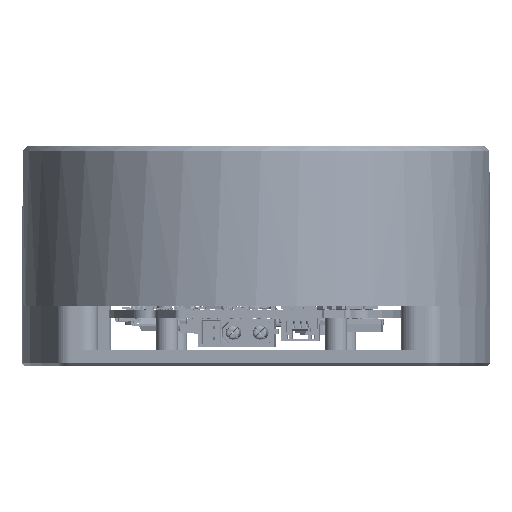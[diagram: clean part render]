
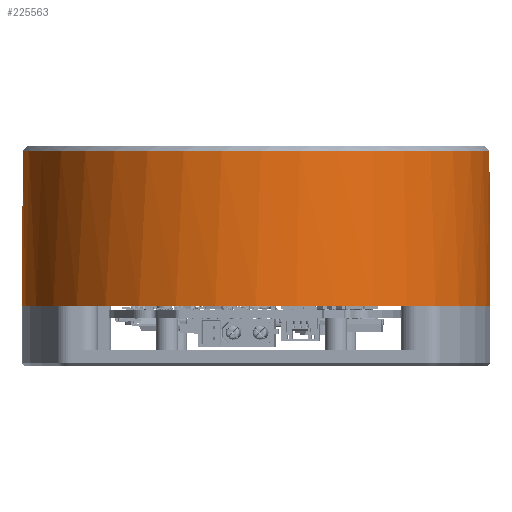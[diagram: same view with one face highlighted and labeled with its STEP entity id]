
A CAD part, front view. The second image highlights one B-rep face of the part: STEP entity #225563.
In plain terms, the highlighted cylindrical face has radius 43 mm (diameter 86 mm), a full revolution.
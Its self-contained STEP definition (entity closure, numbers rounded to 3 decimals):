
#2290 = CARTESIAN_POINT ( 'NONE',  ( 0., 0., 0. ) ) ;
#18045 = DIRECTION ( 'NONE',  ( 0., 1., 0. ) ) ;
#51133 = EDGE_CURVE ( 'NONE', #75888, #316581, #59507, .T. ) ;
#59507 = LINE ( 'NONE', #424094, #254489 ) ;
#75888 = VERTEX_POINT ( 'NONE', #435148 ) ;
#88508 = ORIENTED_EDGE ( 'NONE', *, *, #51133, .T. ) ;
#90358 = LINE ( 'NONE', #225700, #189606 ) ;
#117429 = DIRECTION ( 'NONE',  ( 0., 0., -1. ) ) ;
#125081 = EDGE_CURVE ( 'NONE', #320873, #229473, #90358, .T. ) ;
#128693 = EDGE_CURVE ( 'NONE', #316581, #320873, #226623, .T. ) ;
#142291 = DIRECTION ( 'NONE',  ( 0., 1., 0. ) ) ;
#144471 = CARTESIAN_POINT ( 'NONE',  ( 0., 1., 0. ) ) ;
#160898 = CIRCLE ( 'NONE', #408967, 43. ) ;
#189606 = VECTOR ( 'NONE', #263378, 1000. ) ;
#195419 = ORIENTED_EDGE ( 'NONE', *, *, #125081, .T. ) ;
#214134 = DIRECTION ( 'NONE',  ( 0., 1., 0. ) ) ;
#216325 = DIRECTION ( 'NONE',  ( 0., 0., -1. ) ) ;
#220583 = ORIENTED_EDGE ( 'NONE', *, *, #277320, .T. ) ;
#225563 = ADVANCED_FACE ( 'NONE', ( #368524, #437292 ), #266465, .T. ) ;
#225700 = CARTESIAN_POINT ( 'NONE',  ( 42.986, 0., 1.103 ) ) ;
#226623 = CIRCLE ( 'NONE', #255119, 43. ) ;
#229473 = VERTEX_POINT ( 'NONE', #415983 ) ;
#233935 = ORIENTED_EDGE ( 'NONE', *, *, #128693, .T. ) ;
#234297 = AXIS2_PLACEMENT_3D ( 'NONE', #2290, #272973, #339560 ) ;
#253108 = DIRECTION ( 'NONE',  ( 0., 0., -1. ) ) ;
#254489 = VECTOR ( 'NONE', #18045, 1000. ) ;
#255119 = AXIS2_PLACEMENT_3D ( 'NONE', #320573, #214134, #216325 ) ;
#263378 = DIRECTION ( 'NONE',  ( 0., -1., 0. ) ) ;
#266465 = CYLINDRICAL_SURFACE ( 'NONE', #234297, 43. ) ;
#270640 = CARTESIAN_POINT ( 'NONE',  ( 0., 29.5, -43. ) ) ;
#272797 = ORIENTED_EDGE ( 'NONE', *, *, #344064, .T. ) ;
#272973 = DIRECTION ( 'NONE',  ( 0., -1., 0. ) ) ;
#277320 = EDGE_CURVE ( 'NONE', #229473, #75888, #160898, .T. ) ;
#300648 = EDGE_LOOP ( 'NONE', ( #233935, #195419, #220583, #88508 ) ) ;
#316581 = VERTEX_POINT ( 'NONE', #381584 ) ;
#320573 = CARTESIAN_POINT ( 'NONE',  ( 0., 8., 0. ) ) ;
#320873 = VERTEX_POINT ( 'NONE', #418392 ) ;
#333918 = EDGE_LOOP ( 'NONE', ( #272797 ) ) ;
#339560 = DIRECTION ( 'NONE',  ( 0., 0., -1. ) ) ;
#344064 = EDGE_CURVE ( 'NONE', #370551, #370551, #350766, .T. ) ;
#350766 = CIRCLE ( 'NONE', #386247, 43. ) ;
#357075 = CARTESIAN_POINT ( 'NONE',  ( 0., 29.5, 0. ) ) ;
#368524 = FACE_OUTER_BOUND ( 'NONE', #300648, .T. ) ;
#370551 = VERTEX_POINT ( 'NONE', #270640 ) ;
#381584 = CARTESIAN_POINT ( 'NONE',  ( 22.448, 8., 36.676 ) ) ;
#386247 = AXIS2_PLACEMENT_3D ( 'NONE', #357075, #421505, #117429 ) ;
#408967 = AXIS2_PLACEMENT_3D ( 'NONE', #144471, #142291, #253108 ) ;
#415983 = CARTESIAN_POINT ( 'NONE',  ( 42.986, 1., 1.103 ) ) ;
#418392 = CARTESIAN_POINT ( 'NONE',  ( 42.986, 8., 1.103 ) ) ;
#421505 = DIRECTION ( 'NONE',  ( 0., -1., 0. ) ) ;
#424094 = CARTESIAN_POINT ( 'NONE',  ( 22.448, 0., 36.676 ) ) ;
#435148 = CARTESIAN_POINT ( 'NONE',  ( 22.448, 1., 36.676 ) ) ;
#437292 = FACE_OUTER_BOUND ( 'NONE', #333918, .T. ) ;
